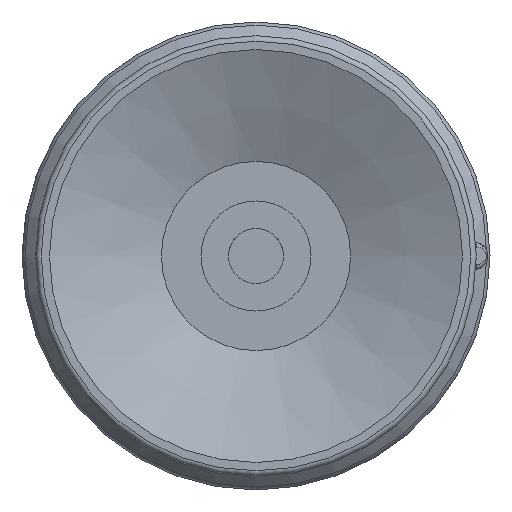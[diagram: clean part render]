
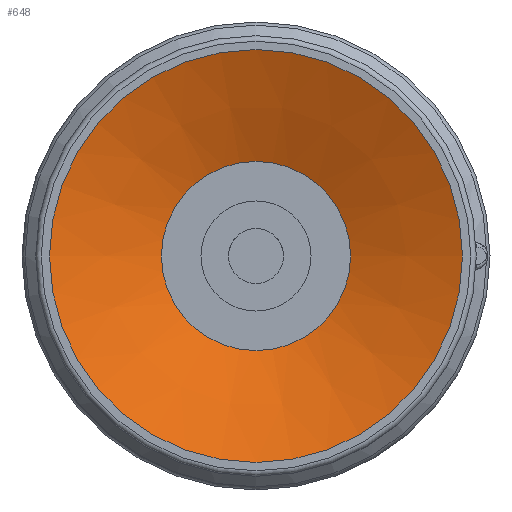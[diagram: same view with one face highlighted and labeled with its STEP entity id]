
A CAD part, front view. The second image highlights one B-rep face of the part: STEP entity #648.
In plain terms, the highlighted conical face has half-angle 67.5 degrees and reference radius 3.437 mm.
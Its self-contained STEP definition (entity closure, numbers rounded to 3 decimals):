
#648=ADVANCED_FACE('',(#938,#939),#940,.F.);
#938=FACE_BOUND('',#2252,.T.);
#939=FACE_OUTER_BOUND('',#2253,.T.);
#940=CONICAL_SURFACE('',#2254,3.437,1.178);
#2252=EDGE_LOOP('',(#2985));
#2253=EDGE_LOOP('',(#2986));
#2254=AXIS2_PLACEMENT_3D('',#2987,#2988,#2989);
#2985=ORIENTED_EDGE('',*,*,#3230,.F.);
#2986=ORIENTED_EDGE('',*,*,#3234,.T.);
#2987=CARTESIAN_POINT('',(0.0,0.0,1.683));
#2988=DIRECTION('',(0.0,0.,-1.0));
#2989=DIRECTION('',(0.0,1.0,0.));
#3230=EDGE_CURVE('',#3580,#3580,#3581,.T.);
#3234=EDGE_CURVE('',#3588,#3588,#3589,.T.);
#3580=VERTEX_POINT('',#4529);
#3581=CIRCLE('',#4530,3.437);
#3588=VERTEX_POINT('',#4537);
#3589=CIRCLE('',#4538,7.5);
#4529=CARTESIAN_POINT('',(-3.437,0.0,1.683));
#4530=AXIS2_PLACEMENT_3D('',#4838,#4839,#4840);
#4537=CARTESIAN_POINT('',(-7.5,0.0,0.));
#4538=AXIS2_PLACEMENT_3D('',#4850,#4851,#4852);
#4838=CARTESIAN_POINT('',(0.0,0.0,1.683));
#4839=DIRECTION('',(0.0,0.,-1.0));
#4840=DIRECTION('',(0.0,1.0,0.));
#4850=CARTESIAN_POINT('',(0.0,0.0,0.));
#4851=DIRECTION('',(0.0,0.,-1.0));
#4852=DIRECTION('',(0.0,1.0,0.));
